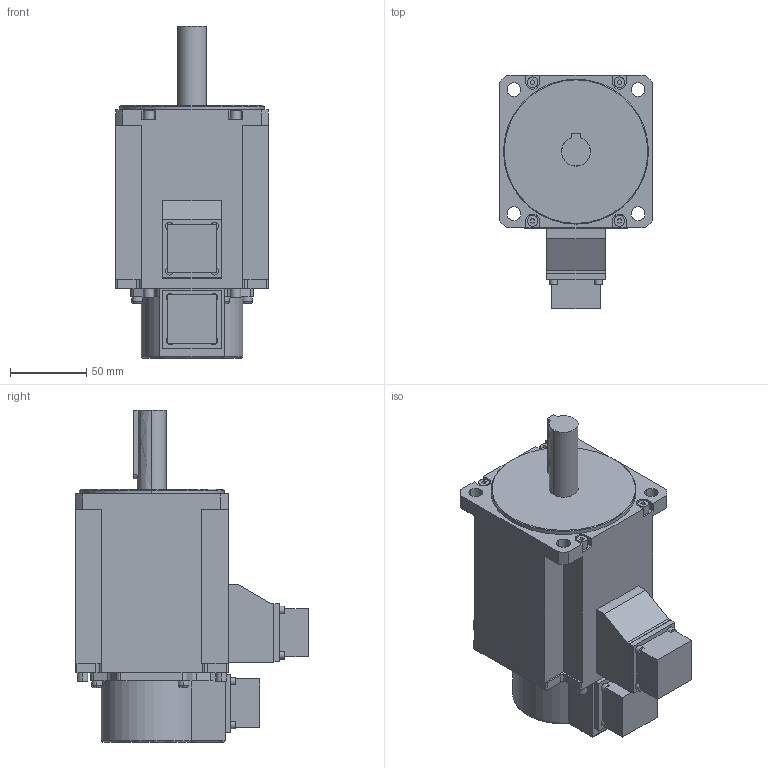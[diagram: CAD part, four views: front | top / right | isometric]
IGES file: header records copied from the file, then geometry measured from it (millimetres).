
Start section:  PTC IGES file: rsms_10ask3-070830.igs
Global section: file name: rsms_10ask3-070830.igs; native system: Pro/ENGINEER by Parametric Technology Corporation; preprocessor: 2004440; author: Administrator; organization: Unknown; date: 070830.161350; units: millimetre
Bounding box: 100 x 152.7 x 217.5 mm (x, y, z)
Volume: 1378684.1 mm3; surface area: 96514.5 mm2
Topology: 1 solids, 1 shells, 270 faces, 708 edges, 464 vertices
Faces by surface type: bspline 171, revolution 99
